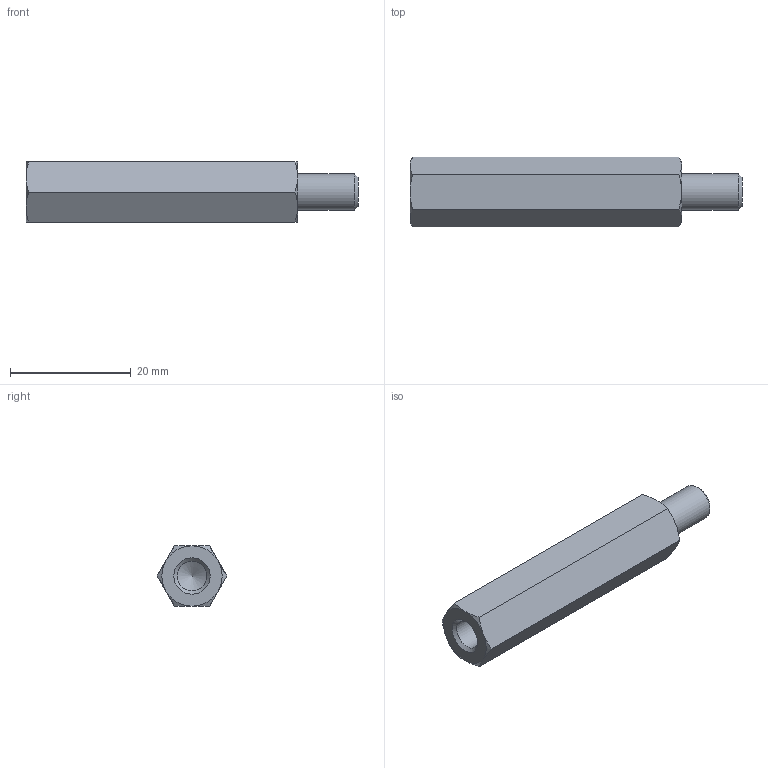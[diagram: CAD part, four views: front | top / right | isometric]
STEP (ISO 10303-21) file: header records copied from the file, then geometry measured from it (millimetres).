
FILE_DESCRIPTION( ( 'STEP AP203' ), '1' );
FILE_NAME( 'C:/Temp/Ganter_Step_05_03_2020/data/3_2/gn6220/gn6220_ni/Stainless Steel-Spacer GN 6220-NI-M6-45-B.stp', '2020-03-13T05:43:16', ( 'License CC BY-ND 4.0' ), ( 'CADENAS' ), ' ', 'PARTsolutions', ' ' );
FILE_SCHEMA( ( 'CONFIG_CONTROL_DESIGN' ) );
Length unit declared in the file: millimetre
Products named in the file (1): _Stainless Steel-Spacer GN 6220-NI-M6-45-B
Bounding box: 55 x 11.55 x 10 mm (x, y, z)
Volume: 3837.9 mm3; surface area: 2168 mm2
Topology: 1 solids, 1 shells, 26 faces, 55 edges, 32 vertices
Faces by surface type: cone 15, plane 9, cylinder 2
Full cylindrical faces by diameter (mm): 4.917 x1, 6 x1
Entity records: 762 total; most frequent: CARTESIAN_POINT 226, DIRECTION 96, ORIENTED_EDGE 96, EDGE_CURVE 48, AXIS2_PLACEMENT_3D 45, EDGE_LOOP 32, VERTEX_POINT 31, FACE_OUTER_BOUND 28
